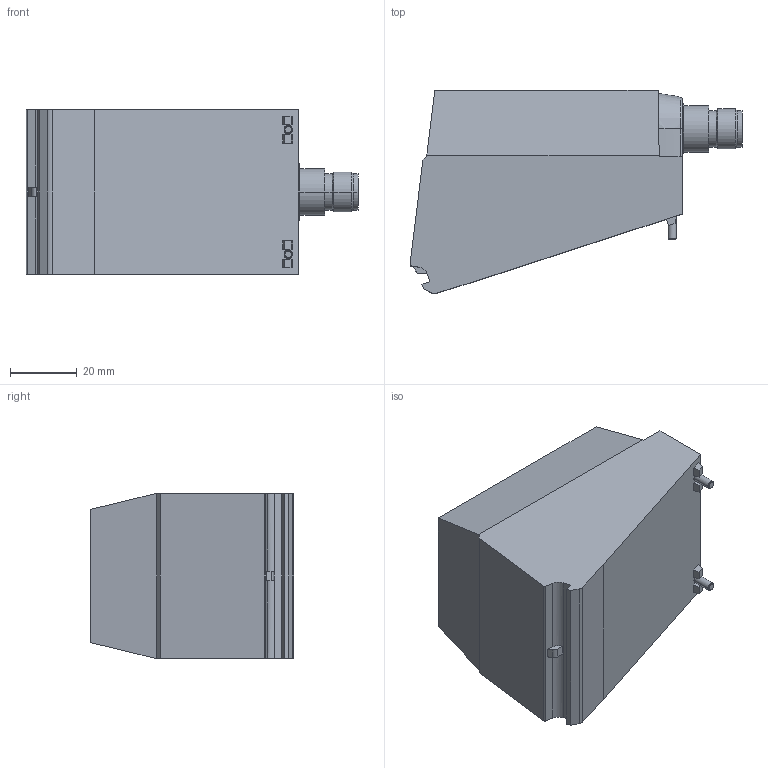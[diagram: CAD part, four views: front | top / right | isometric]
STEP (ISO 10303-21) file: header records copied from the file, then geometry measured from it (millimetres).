
FILE_DESCRIPTION((''),'2;1');
FILE_NAME('R414009026','2023-11-24T11:27:11',('THD3HC'),(''),'CREO PARAMETRIC BY PTC INC, 2020044','CREO PARAMETRIC BY PTC INC, 2020044','');
FILE_SCHEMA(('CONFIG_CONTROL_DESIGN','SHAPE_APPEARANCE_LAYERS_GROUPS'));
Length unit declared in the file: millimetre
Products named in the file (1): R414009026
Bounding box: 99.84 x 61.13 x 49.6 mm (x, y, z)
Volume: 183777.7 mm3; surface area: 21463.2 mm2
Topology: 1 solids, 1 shells, 144 faces, 343 edges, 224 vertices
Faces by surface type: plane 92, cylinder 38, cone 8, sphere 4, bspline 1, torus 1
Entity records: 5793 total; most frequent: CARTESIAN_POINT 862, DIRECTION 714, ORIENTED_EDGE 686, PRESENTATION_STYLE_ASSIGNMENT 378, STYLED_ITEM 344, CURVE_STYLE 343, EDGE_CURVE 343, VECTOR 244
